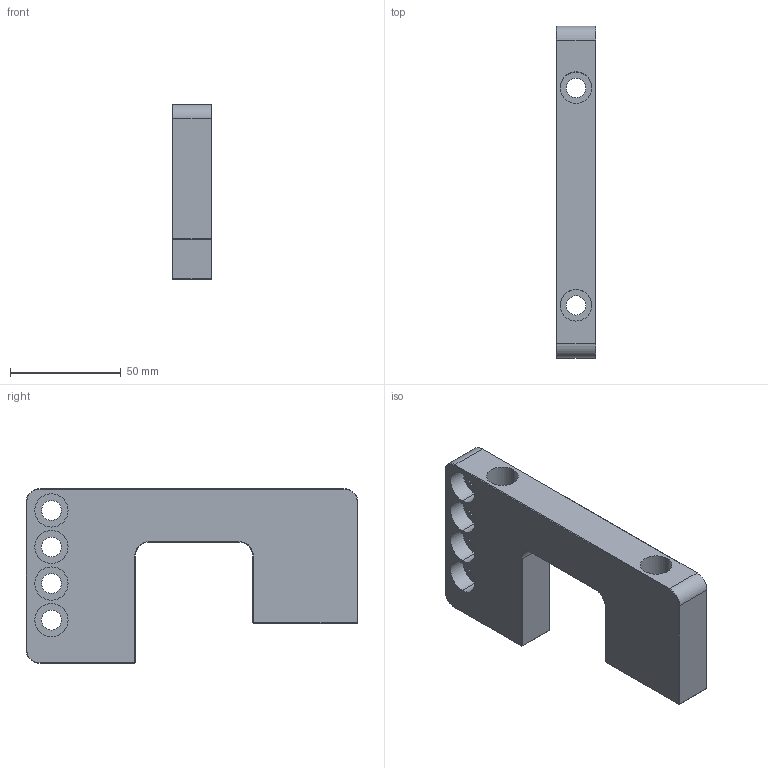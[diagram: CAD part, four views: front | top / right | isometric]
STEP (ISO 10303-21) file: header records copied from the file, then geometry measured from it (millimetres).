
FILE_DESCRIPTION (( 'STEP AP214' ), '1' );
FILE_NAME ('ABTS-1075 (CATALOG MODEL).STEP', '2025-08-25T20:35:05', ( '' ), ( '' ), 'SwSTEP 2.0', 'SolidWorks 2025', '' );
FILE_SCHEMA (( 'AUTOMOTIVE_DESIGN' ));
Length unit declared in the file: inch
Products named in the file (1): ABTS-1075 (CATALOG MODEL)
Bounding box: 18 x 149.86 x 78.96 mm (x, y, z)
Volume: 111237.5 mm3; surface area: 34739.3 mm2
Topology: 1 solids, 1 shells, 108 faces, 242 edges, 142 vertices
Faces by surface type: cylinder 45, plane 45, cone 18
Entity records: 2973 total; most frequent: DIRECTION 552, CARTESIAN_POINT 485, ORIENTED_EDGE 468, EDGE_CURVE 234, AXIS2_PLACEMENT_3D 209, VERTEX_POINT 142, LINE 134, VECTOR 134
